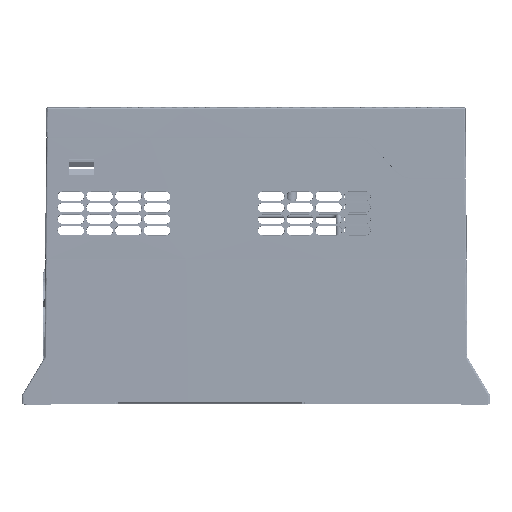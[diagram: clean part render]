
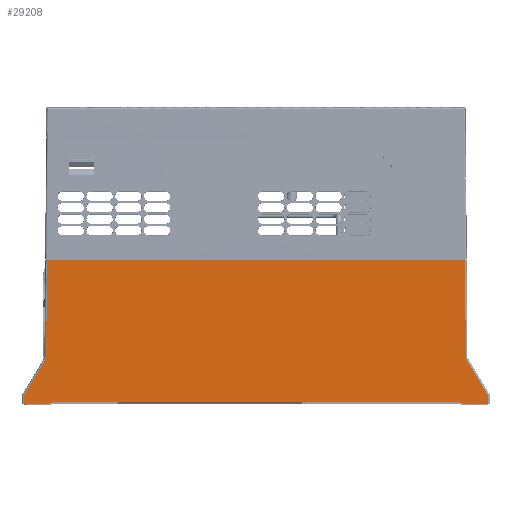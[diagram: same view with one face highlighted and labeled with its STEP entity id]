
A CAD part, left-side view. The second image highlights one B-rep face of the part: STEP entity #29208.
In plain terms, the highlighted conical face has half-angle 0.5 degrees and reference radius 14999.6 mm.
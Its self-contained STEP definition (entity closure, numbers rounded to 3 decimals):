
#300=CARTESIAN_POINT('',(-77.544,252.8,
0.));
#302=CARTESIAN_POINT('',(14921.945,129.,0.));
#303=DIRECTION('',(0.,0.,1.));
#304=DIRECTION('',(-1.,0.008,0.));
#305=AXIS2_PLACEMENT_3D('',#302,#303,#304);
#307=CARTESIAN_POINT('',(-77.544,5.2,
0.));
#968=CARTESIAN_POINT('',(-77.544,5.2,
0.));
#969=CARTESIAN_POINT('',(-77.543,4.866,
-0.167));
#970=CARTESIAN_POINT('',(-77.54,4.196,
-0.5));
#971=CARTESIAN_POINT('',(-77.537,3.526,
-0.833));
#972=CARTESIAN_POINT('',(-77.536,3.191,
-1.));
#980=DIRECTION('',(0.009,0.,1.));
#981=VECTOR('',#980,4.732);
#982=CARTESIAN_POINT('',(-77.396,270.509,-1.));
#983=LINE('',#982,#981);
#984=CARTESIAN_POINT('',(-77.278,256.783,26.608));
#985=CARTESIAN_POINT('',(-77.292,259.07,22.796));
#986=CARTESIAN_POINT('',(-77.319,263.646,15.17));
#987=CARTESIAN_POINT('',(-77.343,268.222,7.545));
#988=CARTESIAN_POINT('',(-77.355,270.509,3.732));
#990=CARTESIAN_POINT('',(-76.76,256.263,86.5));
#991=CARTESIAN_POINT('',(-76.933,256.436,66.536));
#992=CARTESIAN_POINT('',(-77.105,256.609,46.572));
#993=CARTESIAN_POINT('',(-77.278,256.783,26.608));
#995=CARTESIAN_POINT('',(-76.76,1.737,86.5));
#996=CARTESIAN_POINT('',(-76.933,1.564,66.536));
#997=CARTESIAN_POINT('',(-77.105,1.391,46.572));
#998=CARTESIAN_POINT('',(-77.278,1.217,26.608));
#1000=CARTESIAN_POINT('',(-77.355,-12.509,
3.732));
#1001=CARTESIAN_POINT('',(-77.343,-10.222,
7.545));
#1002=CARTESIAN_POINT('',(-77.319,-5.646,
15.17));
#1003=CARTESIAN_POINT('',(-77.292,-1.07,
22.796));
#1004=CARTESIAN_POINT('',(-77.278,1.217,26.608));
#1006=DIRECTION('',(0.009,0.,1.));
#1007=VECTOR('',#1006,4.732);
#1008=CARTESIAN_POINT('',(-77.396,-12.509,-1.));
#1009=LINE('',#1008,#1007);
#1604=CARTESIAN_POINT('',(14921.945,129.,-1.));
#1605=DIRECTION('',(0.,0.,-1.));
#1606=DIRECTION('',(-1.,0.008,0.));
#1607=AXIS2_PLACEMENT_3D('',#1604,#1605,#1606);
#1612=CARTESIAN_POINT('',(-77.536,254.809,
-1.));
#1619=CARTESIAN_POINT('',(-77.536,3.191,
-1.));
#1624=CARTESIAN_POINT('',(14921.945,129.,-1.));
#1625=DIRECTION('',(0.,0.,-1.));
#1626=DIRECTION('',(-1.,-0.009,0.));
#1627=AXIS2_PLACEMENT_3D('',#1624,#1625,#1626);
#4754=CARTESIAN_POINT('',(-77.278,256.783,26.608));
#4762=CARTESIAN_POINT('',(-77.355,270.509,3.732));
#4813=CARTESIAN_POINT('',(14921.945,129.,86.5));
#4814=DIRECTION('',(0.,0.,1.));
#4815=DIRECTION('',(-1.,0.008,0.));
#4816=AXIS2_PLACEMENT_3D('',#4813,#4814,#4815);
#5341=CARTESIAN_POINT('',(-77.355,-12.509,
3.732));
#5349=CARTESIAN_POINT('',(-77.278,1.217,26.608));
#16300=CARTESIAN_POINT('',(-77.536,254.809,
-1.));
#16301=CARTESIAN_POINT('',(-77.537,254.474,
-0.833));
#16302=CARTESIAN_POINT('',(-77.54,253.804,
-0.5));
#16303=CARTESIAN_POINT('',(-77.543,253.134,
-0.167));
#16304=CARTESIAN_POINT('',(-77.544,252.8,
0.));
#23063=CARTESIAN_POINT('',(-76.76,256.263,86.5));
#23064=CARTESIAN_POINT('',(-76.76,1.737,86.5));
#23065=VERTEX_POINT('',#23063);
#23066=VERTEX_POINT('',#23064);
#23073=VERTEX_POINT('',#4754);
#23078=VERTEX_POINT('',#5349);
#23296=VERTEX_POINT('',#300);
#23298=VERTEX_POINT('',#1612);
#23299=VERTEX_POINT('',#307);
#23301=VERTEX_POINT('',#1619);
#23649=CARTESIAN_POINT('',(-77.396,270.509,-1.));
#23650=VERTEX_POINT('',#23649);
#23653=CARTESIAN_POINT('',(-77.396,-12.509,-1.));
#23654=VERTEX_POINT('',#23653);
#26503=VERTEX_POINT('',#4762);
#26505=VERTEX_POINT('',#5341);
#29179=CARTESIAN_POINT('',(14921.945,129.,42.75));
#29180=DIRECTION('',(0.,0.,-1.));
#29181=DIRECTION('',(-1.,0.,0.));
#29182=AXIS2_PLACEMENT_3D('',#29179,#29180,#29181);
#29183=CONICAL_SURFACE('',#29182,14999.627,0.5);
#29185=ORIENTED_EDGE('',*,*,#29184,.T.);
#29186=ORIENTED_EDGE('',*,*,#29171,.F.);
#29187=ORIENTED_EDGE('',*,*,#27912,.F.);
#29189=ORIENTED_EDGE('',*,*,#29188,.F.);
#29191=ORIENTED_EDGE('',*,*,#29190,.T.);
#29193=ORIENTED_EDGE('',*,*,#29192,.T.);
#29195=ORIENTED_EDGE('',*,*,#29194,.F.);
#29197=ORIENTED_EDGE('',*,*,#29196,.F.);
#29199=ORIENTED_EDGE('',*,*,#29198,.T.);
#29201=ORIENTED_EDGE('',*,*,#29200,.T.);
#29203=ORIENTED_EDGE('',*,*,#29202,.F.);
#29205=ORIENTED_EDGE('',*,*,#29204,.F.);
#29206=EDGE_LOOP('',(#29185,#29186,#29187,#29189,#29191,#29193,#29195,#29197,
#29199,#29201,#29203,#29205));
#29207=FACE_OUTER_BOUND('',#29206,.F.);
#29208=ADVANCED_FACE('',(#29207),#29183,.T.);
#306=CIRCLE('',#305,15000.);
#973=B_SPLINE_CURVE_WITH_KNOTS('',3,(#968,#969,#970,#971,#972),.UNSPECIFIED.,
.F.,.F.,(4,1,4),(0.,0.5,1.),.UNSPECIFIED.);
#989=B_SPLINE_CURVE_WITH_KNOTS('',3,(#984,#985,#986,#987,#988),.UNSPECIFIED.,
.F.,.F.,(4,1,4),(0.,0.5,1.),.UNSPECIFIED.);
#994=B_SPLINE_CURVE_WITH_KNOTS('',3,(#990,#991,#992,#993),.UNSPECIFIED.,.F.,.F.,
(4,4),(0.,1.),.UNSPECIFIED.);
#999=B_SPLINE_CURVE_WITH_KNOTS('',3,(#995,#996,#997,#998),.UNSPECIFIED.,.F.,.F.,
(4,4),(0.,1.),.UNSPECIFIED.);
#1005=B_SPLINE_CURVE_WITH_KNOTS('',3,(#1000,#1001,#1002,#1003,#1004),
.UNSPECIFIED.,.F.,.F.,(4,1,4),(0.,0.5,1.),.UNSPECIFIED.);
#1608=CIRCLE('',#1607,15000.009);
#1628=CIRCLE('',#1627,15000.009);
#4817=CIRCLE('',#4816,14999.245);
#16305=B_SPLINE_CURVE_WITH_KNOTS('',3,(#16300,#16301,#16302,#16303,#16304),
.UNSPECIFIED.,.F.,.F.,(4,1,4),(0.,0.5,1.),.UNSPECIFIED.);
#27912=EDGE_CURVE('',#23296,#23299,#306,.T.);
#29171=EDGE_CURVE('',#23299,#23301,#973,.T.);
#29184=EDGE_CURVE('',#23654,#23301,#1628,.T.);
#29188=EDGE_CURVE('',#23298,#23296,#16305,.T.);
#29190=EDGE_CURVE('',#23298,#23650,#1608,.T.);
#29192=EDGE_CURVE('',#23650,#26503,#983,.T.);
#29194=EDGE_CURVE('',#23073,#26503,#989,.T.);
#29196=EDGE_CURVE('',#23065,#23073,#994,.T.);
#29198=EDGE_CURVE('',#23065,#23066,#4817,.T.);
#29200=EDGE_CURVE('',#23066,#23078,#999,.T.);
#29202=EDGE_CURVE('',#26505,#23078,#1005,.T.);
#29204=EDGE_CURVE('',#23654,#26505,#1009,.T.);
